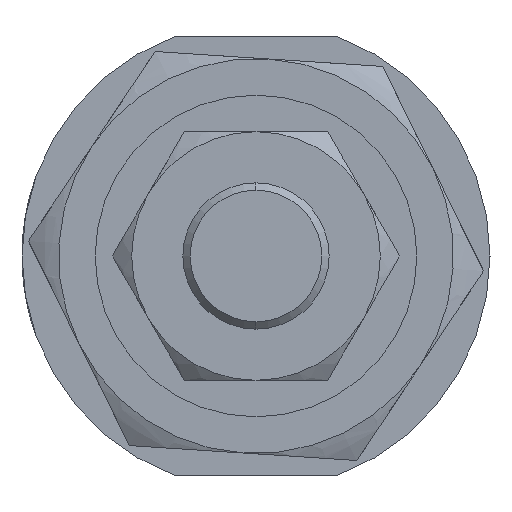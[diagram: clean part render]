
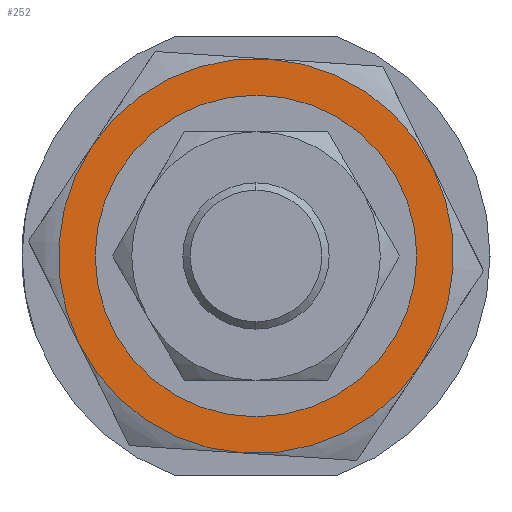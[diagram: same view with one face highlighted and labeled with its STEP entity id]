
A CAD part, left-side view. The second image highlights one B-rep face of the part: STEP entity #252.
In plain terms, the highlighted planar face has unit normal (-1, 0, 0) as drawn and (0, 0, -1) by its records, which use the part's own axes.
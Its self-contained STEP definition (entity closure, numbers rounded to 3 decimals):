
#39 = CARTESIAN_POINT ( 'NONE',  ( 0., 0., -5. ) ) ;
#231 = AXIS2_PLACEMENT_3D ( 'NONE', #971, #948, #1007 ) ;
#252 = ADVANCED_FACE ( 'NONE', ( #2314, #2800 ), #1437, .F. ) ;
#272 = AXIS2_PLACEMENT_3D ( 'NONE', #1893, #429, #2640 ) ;
#292 = CARTESIAN_POINT ( 'NONE',  ( -6.75, -11.691, -5. ) ) ;
#319 = VERTEX_POINT ( 'NONE', #292 ) ;
#336 = DIRECTION ( 'NONE',  ( 1., 0., 0. ) ) ;
#337 = CIRCLE ( 'NONE', #231, 10. ) ;
#357 = VERTEX_POINT ( 'NONE', #799 ) ;
#366 = CARTESIAN_POINT ( 'NONE',  ( 13.5, 0., -5. ) ) ;
#429 = DIRECTION ( 'NONE',  ( 0., 0., 1. ) ) ;
#434 = VERTEX_POINT ( 'NONE', #1287 ) ;
#443 = ORIENTED_EDGE ( 'NONE', *, *, #2346, .F. ) ;
#495 = DIRECTION ( 'NONE',  ( 1., 0., 0. ) ) ;
#590 = EDGE_LOOP ( 'NONE', ( #869, #2132 ) ) ;
#645 = EDGE_CURVE ( 'NONE', #2401, #1959, #1423, .T. ) ;
#672 = AXIS2_PLACEMENT_3D ( 'NONE', #1004, #1268, #2958 ) ;
#697 = CARTESIAN_POINT ( 'NONE',  ( -10., 0., -5. ) ) ;
#706 = DIRECTION ( 'NONE',  ( 1., 0., 0. ) ) ;
#737 = DIRECTION ( 'NONE',  ( 0., 0., 1. ) ) ;
#799 = CARTESIAN_POINT ( 'NONE',  ( -13.5, 0., -5. ) ) ;
#813 = AXIS2_PLACEMENT_3D ( 'NONE', #2973, #1999, #1256 ) ;
#852 = VERTEX_POINT ( 'NONE', #1503 ) ;
#869 = ORIENTED_EDGE ( 'NONE', *, *, #645, .T. ) ;
#948 = DIRECTION ( 'NONE',  ( 0., 0., 1. ) ) ;
#960 = CIRCLE ( 'NONE', #1832, 13.5 ) ;
#971 = CARTESIAN_POINT ( 'NONE',  ( 0., 0., -5. ) ) ;
#1004 = CARTESIAN_POINT ( 'NONE',  ( 0., 0., -5. ) ) ;
#1007 = DIRECTION ( 'NONE',  ( 1., 0., 0. ) ) ;
#1120 = CARTESIAN_POINT ( 'NONE',  ( -6.75, 11.691, -5. ) ) ;
#1133 = ORIENTED_EDGE ( 'NONE', *, *, #2511, .F. ) ;
#1201 = VERTEX_POINT ( 'NONE', #366 ) ;
#1256 = DIRECTION ( 'NONE',  ( 1., 0., 0. ) ) ;
#1268 = DIRECTION ( 'NONE',  ( 0., 0., 1. ) ) ;
#1287 = CARTESIAN_POINT ( 'NONE',  ( 6.75, 11.691, -5. ) ) ;
#1379 = CARTESIAN_POINT ( 'NONE',  ( 10., 0., -5. ) ) ;
#1413 = CIRCLE ( 'NONE', #2081, 13.5 ) ;
#1423 = CIRCLE ( 'NONE', #272, 10. ) ;
#1437 = PLANE ( 'NONE',  #2115 ) ;
#1484 = VERTEX_POINT ( 'NONE', #1120 ) ;
#1503 = CARTESIAN_POINT ( 'NONE',  ( 6.75, -11.691, -5. ) ) ;
#1520 = ORIENTED_EDGE ( 'NONE', *, *, #1609, .F. ) ;
#1608 = DIRECTION ( 'NONE',  ( 0., 0., 1. ) ) ;
#1609 = EDGE_CURVE ( 'NONE', #852, #1201, #960, .T. ) ;
#1749 = EDGE_CURVE ( 'NONE', #1959, #2401, #337, .T. ) ;
#1828 = CIRCLE ( 'NONE', #672, 13.5 ) ;
#1832 = AXIS2_PLACEMENT_3D ( 'NONE', #2942, #737, #495 ) ;
#1848 = EDGE_LOOP ( 'NONE', ( #1133, #1520, #1968, #2475, #3144, #443 ) ) ;
#1893 = CARTESIAN_POINT ( 'NONE',  ( 0., 0., -5. ) ) ;
#1959 = VERTEX_POINT ( 'NONE', #697 ) ;
#1968 = ORIENTED_EDGE ( 'NONE', *, *, #2865, .F. ) ;
#1999 = DIRECTION ( 'NONE',  ( 0., 0., 1. ) ) ;
#2081 = AXIS2_PLACEMENT_3D ( 'NONE', #39, #2468, #2234 ) ;
#2115 = AXIS2_PLACEMENT_3D ( 'NONE', #2155, #2175, #706 ) ;
#2132 = ORIENTED_EDGE ( 'NONE', *, *, #1749, .T. ) ;
#2155 = CARTESIAN_POINT ( 'NONE',  ( 0., 0., -5. ) ) ;
#2175 = DIRECTION ( 'NONE',  ( 0., 0., 1. ) ) ;
#2234 = DIRECTION ( 'NONE',  ( 1., 0., 0. ) ) ;
#2314 = FACE_BOUND ( 'NONE', #590, .T. ) ;
#2346 = EDGE_CURVE ( 'NONE', #434, #1484, #3128, .T. ) ;
#2401 = VERTEX_POINT ( 'NONE', #1379 ) ;
#2468 = DIRECTION ( 'NONE',  ( 0., 0., 1. ) ) ;
#2475 = ORIENTED_EDGE ( 'NONE', *, *, #2917, .F. ) ;
#2511 = EDGE_CURVE ( 'NONE', #1201, #434, #2606, .T. ) ;
#2604 = CIRCLE ( 'NONE', #813, 13.5 ) ;
#2606 = CIRCLE ( 'NONE', #3062, 13.5 ) ;
#2640 = DIRECTION ( 'NONE',  ( 1., 0., 0. ) ) ;
#2680 = DIRECTION ( 'NONE',  ( 0., 0., 1. ) ) ;
#2800 = FACE_OUTER_BOUND ( 'NONE', #1848, .T. ) ;
#2817 = CARTESIAN_POINT ( 'NONE',  ( 0., 0., -5. ) ) ;
#2865 = EDGE_CURVE ( 'NONE', #319, #852, #1828, .T. ) ;
#2900 = CARTESIAN_POINT ( 'NONE',  ( 0., 0., -5. ) ) ;
#2912 = DIRECTION ( 'NONE',  ( 1., 0., 0. ) ) ;
#2917 = EDGE_CURVE ( 'NONE', #357, #319, #1413, .T. ) ;
#2920 = EDGE_CURVE ( 'NONE', #1484, #357, #2604, .T. ) ;
#2942 = CARTESIAN_POINT ( 'NONE',  ( 0., 0., -5. ) ) ;
#2958 = DIRECTION ( 'NONE',  ( 1., 0., 0. ) ) ;
#2963 = AXIS2_PLACEMENT_3D ( 'NONE', #2817, #1608, #336 ) ;
#2973 = CARTESIAN_POINT ( 'NONE',  ( 0., 0., -5. ) ) ;
#3062 = AXIS2_PLACEMENT_3D ( 'NONE', #2900, #2680, #2912 ) ;
#3128 = CIRCLE ( 'NONE', #2963, 13.5 ) ;
#3144 = ORIENTED_EDGE ( 'NONE', *, *, #2920, .F. ) ;
